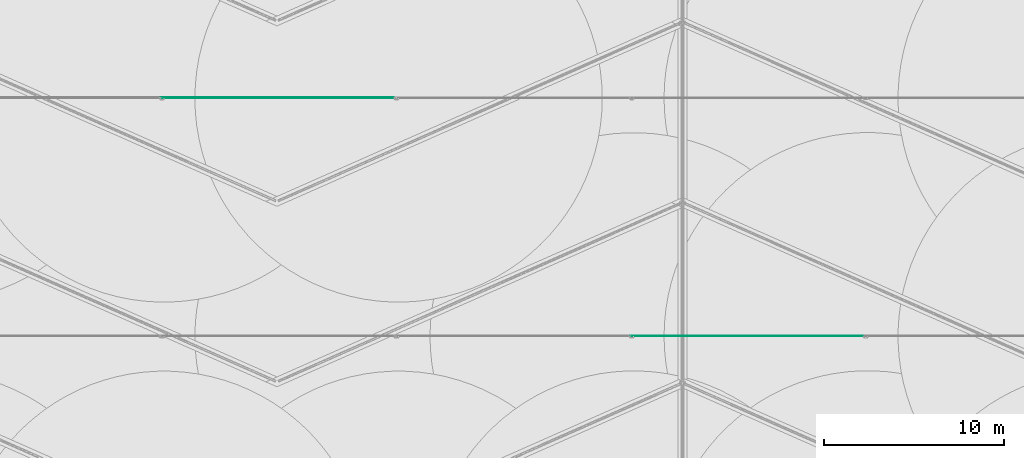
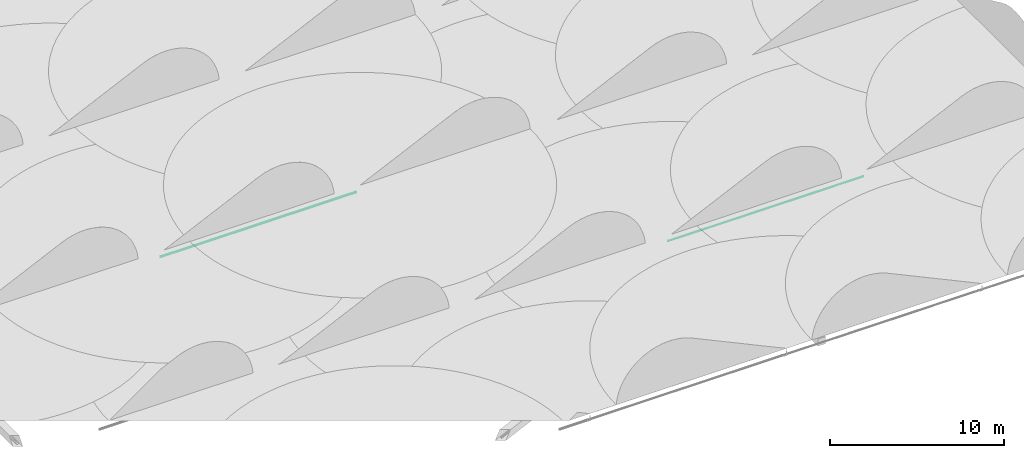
# One storey, part 28 of 166: 2 flow segments.
"""IFC2X3 building model written with IfcOpenShell, lengths in metres."""

from ifc_helpers import new_model, entity, si_unit, converted_unit, direction, frame, frame_2d, origin, origin_2d_with_axis, place, context, subcontext, project, spatial, circle, extrude, type_object, element, save


model = new_model("IFC2X3")

# Units and contexts
model_context = context("Model", 3, precision=1e-05, world=origin(), true_north=direction((6.123233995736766e-17, 1.0)))
body_context = subcontext(model_context, "Body", "Model", "MODEL_VIEW")
ifc_project = project(units=[si_unit("LENGTHUNIT", "METRE"), converted_unit("PLANEANGLEUNIT", "DEGREE", entity("IfcPlaneAngleMeasure", 0.017453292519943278), si_unit("PLANEANGLEUNIT", "RADIAN"), dimensions=[0, 0, 0, 0, 0, 0, 0]), si_unit("AREAUNIT", "SQUARE_METRE")], contexts=[model_context])

# Site, building, storey
site_placement = place(None, origin())
site = spatial("IfcSite", under=ifc_project, at=site_placement, Name="Default", CompositionType="ELEMENT")
building_placement = place(site_placement, origin())
building = spatial("IfcBuilding", under=site, at=building_placement, Name="CASA DE ACOLHIDA PARA IDOSOS", CompositionType="ELEMENT")
storey_placement = place(building_placement, frame((0.0, 0.0, -1.7499999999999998)))
storey = spatial("IfcBuildingStorey", under=building, at=storey_placement, Name="IMPLANTAÇÃO DRENAGEM", CompositionType="ELEMENT", Elevation=-1.7499999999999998)

# Flow segments
pipe_segment_type = type_object("IfcPipeSegmentType", Name="Tipos de tubos:AF_Tubo Marrom Soldável", PredefinedType="NOTDEFINED")
flow_segment_1_placement = place(storey_placement, origin())
element("IfcFlowSegment", 1, at=flow_segment_1_placement, inside=storey, type_object=pipe_segment_type, Name="Tipos de tubos:AF_Tubo Marrom Soldável", ObjectType="Tipos de tubos:AF_Tubo Marrom Soldável", context=body_context, shape_type="SweptSolid", body=[
    extrude(circle(Radius=0.025, at=frame_2d((0.0, -2.707167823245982e-16), x_axis=(1.0, 0.0))), frame((-5.958348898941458, 9.654942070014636, -0.19999999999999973), z_axis=(1.0, 0.0, 0.0), x_axis=(0.0, -1.0, 0.0)), (0.0, 0.0, 1.0), 12.9348),
])
flow_segment_2_placement = place(storey_placement, origin())
element("IfcFlowSegment", 2, at=flow_segment_2_placement, inside=storey, type_object=pipe_segment_type, Name="Tipos de tubos:AF_Tubo Marrom Soldável", ObjectType="Tipos de tubos:AF_Tubo Marrom Soldável", context=body_context, shape_type="SweptSolid", body=[
    extrude(circle(Radius=0.0125, at=origin_2d_with_axis()), frame((20.064753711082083, -3.545057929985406, -0.19999999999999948), z_axis=(1.0, 0.0, 0.0), x_axis=(0.0, -1.0, 0.0)), (0.0, 0.0, 1.0), 12.928397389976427),
])

save(model, "model.ifc")
